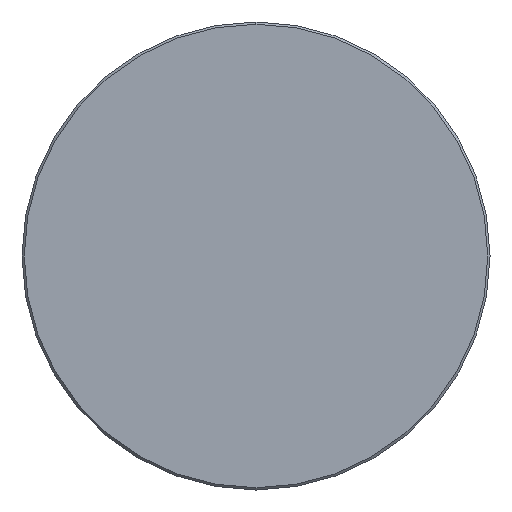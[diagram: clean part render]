
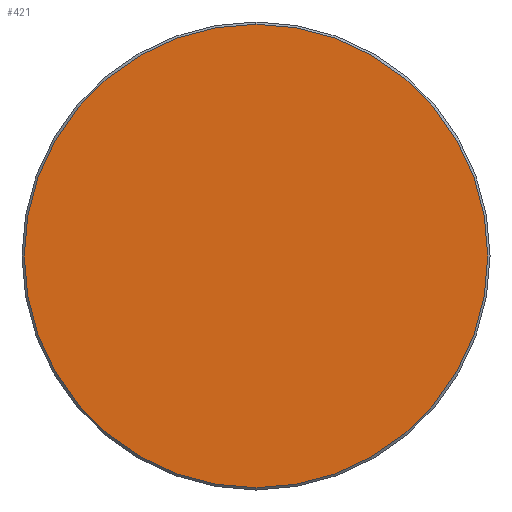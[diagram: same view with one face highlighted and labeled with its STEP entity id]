
A CAD part, left-side view. The second image highlights one B-rep face of the part: STEP entity #421.
In plain terms, the highlighted planar face has unit normal (-1, 0, 0).
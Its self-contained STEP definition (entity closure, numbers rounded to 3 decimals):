
#14 = CARTESIAN_POINT ( 'NONE',  ( 110., 0., 30.7 ) ) ;
#29 = CARTESIAN_POINT ( 'NONE',  ( 110., 0., 0. ) ) ;
#31 = ORIENTED_EDGE ( 'NONE', *, *, #274, .T. ) ;
#144 = DIRECTION ( 'NONE',  ( 0., 0., -1. ) ) ;
#199 = CARTESIAN_POINT ( 'NONE',  ( 110., 0., -30.7 ) ) ;
#253 = PLANE ( 'NONE',  #989 ) ;
#274 = EDGE_CURVE ( 'NONE', #599, #810, #1224, .T. ) ;
#344 = AXIS2_PLACEMENT_3D ( 'NONE', #1292, #780, #878 ) ;
#421 = ADVANCED_FACE ( 'NONE', ( #1137 ), #253, .F. ) ;
#446 = ORIENTED_EDGE ( 'NONE', *, *, #881, .T. ) ;
#497 = AXIS2_PLACEMENT_3D ( 'NONE', #29, #914, #809 ) ;
#599 = VERTEX_POINT ( 'NONE', #199 ) ;
#780 = DIRECTION ( 'NONE',  ( -1., 0., 0. ) ) ;
#809 = DIRECTION ( 'NONE',  ( 0., 0., -1. ) ) ;
#810 = VERTEX_POINT ( 'NONE', #14 ) ;
#851 = CIRCLE ( 'NONE', #497, 30.7 ) ;
#878 = DIRECTION ( 'NONE',  ( 0., 0., -1. ) ) ;
#881 = EDGE_CURVE ( 'NONE', #810, #599, #851, .T. ) ;
#892 = EDGE_LOOP ( 'NONE', ( #31, #446 ) ) ;
#914 = DIRECTION ( 'NONE',  ( -1., 0., 0. ) ) ;
#951 = CARTESIAN_POINT ( 'NONE',  ( 110., 31., 0. ) ) ;
#989 = AXIS2_PLACEMENT_3D ( 'NONE', #951, #1144, #144 ) ;
#1137 = FACE_OUTER_BOUND ( 'NONE', #892, .T. ) ;
#1144 = DIRECTION ( 'NONE',  ( 1., 0., 0. ) ) ;
#1224 = CIRCLE ( 'NONE', #344, 30.7 ) ;
#1292 = CARTESIAN_POINT ( 'NONE',  ( 110., 0., 0. ) ) ;
